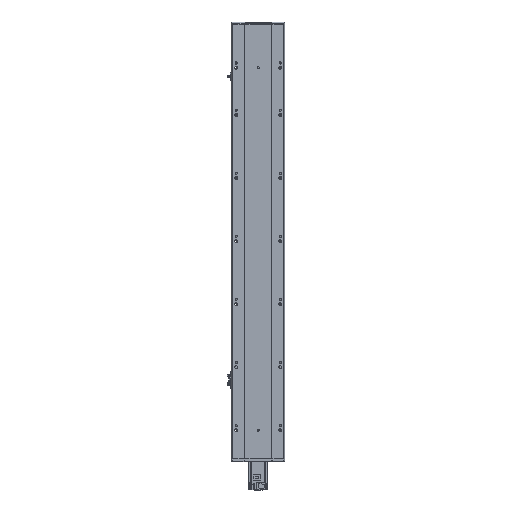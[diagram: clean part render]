
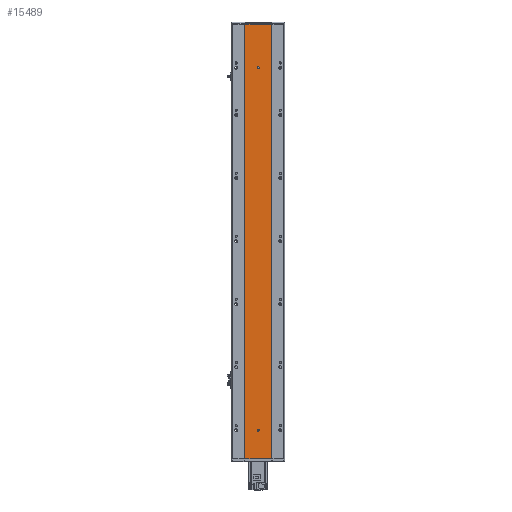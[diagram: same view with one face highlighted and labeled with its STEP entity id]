
A CAD part, top view. The second image highlights one B-rep face of the part: STEP entity #15489.
In plain terms, the highlighted planar face has unit normal (0, 0, 1).
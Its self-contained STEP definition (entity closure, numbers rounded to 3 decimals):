
#627 = ORIENTED_EDGE ( 'NONE', *, *, #13998, .F. ) ;
#671 = CARTESIAN_POINT ( 'NONE',  ( -42., 0., 44. ) ) ;
#1401 = ORIENTED_EDGE ( 'NONE', *, *, #11328, .F. ) ;
#1897 = DIRECTION ( 'NONE',  ( 0., -1., 0. ) ) ;
#2303 = VERTEX_POINT ( 'NONE', #16209 ) ;
#2469 = VERTEX_POINT ( 'NONE', #8473 ) ;
#2512 = EDGE_CURVE ( 'NONE', #7746, #8352, #4620, .T. ) ;
#2520 = ORIENTED_EDGE ( 'NONE', *, *, #19139, .F. ) ;
#2730 = EDGE_LOOP ( 'NONE', ( #11722, #21947, #627, #8722 ) ) ;
#2850 = VECTOR ( 'NONE', #4223, 1000. ) ;
#3044 = DIRECTION ( 'NONE',  ( 0., 0., -1. ) ) ;
#4223 = DIRECTION ( 'NONE',  ( 1., 0., 0. ) ) ;
#4620 = LINE ( 'NONE', #16667, #15398 ) ;
#5562 = CARTESIAN_POINT ( 'NONE',  ( 0., 1242., 44. ) ) ;
#5707 = CARTESIAN_POINT ( 'NONE',  ( 0., 1240., 44. ) ) ;
#6140 = DIRECTION ( 'NONE',  ( -1., 0., 0. ) ) ;
#6599 = EDGE_CURVE ( 'NONE', #2469, #20161, #10549, .T. ) ;
#7333 = DIRECTION ( 'NONE',  ( 0., 1., 0. ) ) ;
#7396 = AXIS2_PLACEMENT_3D ( 'NONE', #5707, #22425, #17364 ) ;
#7746 = VERTEX_POINT ( 'NONE', #16735 ) ;
#7836 = DIRECTION ( 'NONE',  ( 0., 0., 1. ) ) ;
#8217 = VERTEX_POINT ( 'NONE', #12697 ) ;
#8352 = VERTEX_POINT ( 'NONE', #16260 ) ;
#8407 = EDGE_CURVE ( 'NONE', #16829, #2303, #22113, .T. ) ;
#8473 = CARTESIAN_POINT ( 'NONE',  ( -42., 1379., 44. ) ) ;
#8722 = ORIENTED_EDGE ( 'NONE', *, *, #19086, .F. ) ;
#9188 = LINE ( 'NONE', #21634, #13098 ) ;
#9244 = CARTESIAN_POINT ( 'NONE',  ( 3., 91., 44. ) ) ;
#9814 = DIRECTION ( 'NONE',  ( 1., 0., 0. ) ) ;
#10549 = LINE ( 'NONE', #22656, #23119 ) ;
#10947 = DIRECTION ( 'NONE',  ( 1., 0., 0. ) ) ;
#10961 = DIRECTION ( 'NONE',  ( 1., 0., 0. ) ) ;
#10974 = CARTESIAN_POINT ( 'NONE',  ( 42., 1379., 44. ) ) ;
#11328 = EDGE_CURVE ( 'NONE', #20161, #2303, #21907, .T. ) ;
#11391 = CIRCLE ( 'NONE', #16786, 3. ) ;
#11563 = VERTEX_POINT ( 'NONE', #9244 ) ;
#11722 = ORIENTED_EDGE ( 'NONE', *, *, #2512, .F. ) ;
#12697 = CARTESIAN_POINT ( 'NONE',  ( -3., 1240., 44. ) ) ;
#12879 = CARTESIAN_POINT ( 'NONE',  ( 0., 91., 44. ) ) ;
#13098 = VECTOR ( 'NONE', #1897, 1000. ) ;
#13116 = CARTESIAN_POINT ( 'NONE',  ( -3., 1240., 44. ) ) ;
#13724 = CARTESIAN_POINT ( 'NONE',  ( -3., 1242., 44. ) ) ;
#13998 = EDGE_CURVE ( 'NONE', #23232, #8217, #15070, .T. ) ;
#14901 = AXIS2_PLACEMENT_3D ( 'NONE', #20127, #3044, #6140 ) ;
#14997 = VECTOR ( 'NONE', #20122, 1000. ) ;
#15070 = LINE ( 'NONE', #13116, #14997 ) ;
#15134 = EDGE_CURVE ( 'NONE', #8217, #7746, #16043, .T. ) ;
#15395 = ORIENTED_EDGE ( 'NONE', *, *, #17077, .T. ) ;
#15398 = VECTOR ( 'NONE', #7333, 1000. ) ;
#15489 = ADVANCED_FACE ( 'NONE', ( #16579, #22849, #17802 ), #18890, .F. ) ;
#15728 = EDGE_LOOP ( 'NONE', ( #16914, #1401, #18371, #15395 ) ) ;
#16043 = CIRCLE ( 'NONE', #7396, 3. ) ;
#16209 = CARTESIAN_POINT ( 'NONE',  ( 42., 0., 44. ) ) ;
#16260 = CARTESIAN_POINT ( 'NONE',  ( 3., 1242., 44. ) ) ;
#16579 = FACE_BOUND ( 'NONE', #2730, .T. ) ;
#16667 = CARTESIAN_POINT ( 'NONE',  ( 3., 1240., 44. ) ) ;
#16735 = CARTESIAN_POINT ( 'NONE',  ( 3., 1240., 44. ) ) ;
#16768 = DIRECTION ( 'NONE',  ( 0., 0., 1. ) ) ;
#16786 = AXIS2_PLACEMENT_3D ( 'NONE', #12879, #16768, #10961 ) ;
#16829 = VERTEX_POINT ( 'NONE', #671 ) ;
#16914 = ORIENTED_EDGE ( 'NONE', *, *, #8407, .T. ) ;
#17077 = EDGE_CURVE ( 'NONE', #2469, #16829, #9188, .T. ) ;
#17364 = DIRECTION ( 'NONE',  ( 1., 0., 0. ) ) ;
#17607 = VECTOR ( 'NONE', #19960, 1000. ) ;
#17802 = FACE_BOUND ( 'NONE', #23415, .T. ) ;
#18259 = AXIS2_PLACEMENT_3D ( 'NONE', #5562, #7836, #10947 ) ;
#18371 = ORIENTED_EDGE ( 'NONE', *, *, #6599, .F. ) ;
#18890 = PLANE ( 'NONE',  #14901 ) ;
#19086 = EDGE_CURVE ( 'NONE', #8352, #23232, #22924, .T. ) ;
#19139 = EDGE_CURVE ( 'NONE', #11563, #11563, #11391, .T. ) ;
#19960 = DIRECTION ( 'NONE',  ( 0., -1., 0. ) ) ;
#20122 = DIRECTION ( 'NONE',  ( 0., -1., 0. ) ) ;
#20127 = CARTESIAN_POINT ( 'NONE',  ( -42., 1379., 44. ) ) ;
#20161 = VERTEX_POINT ( 'NONE', #20302 ) ;
#20302 = CARTESIAN_POINT ( 'NONE',  ( 42., 1379., 44. ) ) ;
#21634 = CARTESIAN_POINT ( 'NONE',  ( -42., 1379., 44. ) ) ;
#21907 = LINE ( 'NONE', #10974, #17607 ) ;
#21947 = ORIENTED_EDGE ( 'NONE', *, *, #15134, .F. ) ;
#22113 = LINE ( 'NONE', #23732, #2850 ) ;
#22425 = DIRECTION ( 'NONE',  ( 0., 0., 1. ) ) ;
#22656 = CARTESIAN_POINT ( 'NONE',  ( -42., 1379., 44. ) ) ;
#22849 = FACE_OUTER_BOUND ( 'NONE', #15728, .T. ) ;
#22924 = CIRCLE ( 'NONE', #18259, 3. ) ;
#23119 = VECTOR ( 'NONE', #9814, 1000. ) ;
#23232 = VERTEX_POINT ( 'NONE', #13724 ) ;
#23415 = EDGE_LOOP ( 'NONE', ( #2520 ) ) ;
#23732 = CARTESIAN_POINT ( 'NONE',  ( -42., 0., 44. ) ) ;
